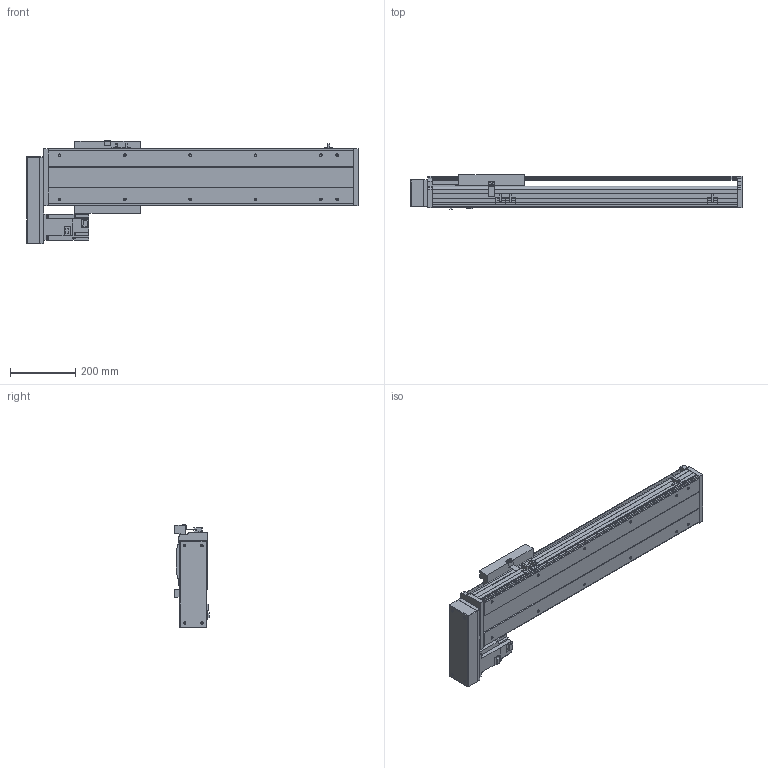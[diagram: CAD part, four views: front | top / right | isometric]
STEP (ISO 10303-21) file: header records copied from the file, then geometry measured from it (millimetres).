
FILE_DESCRIPTION(/* description */ ('STEP AP214'),/* implementation_level */ '2;1');
FILE_NAME(/* name */ 'PSS200-L10-S600-BR-T75-C1-N(0)',/* time_stamp */ '2022-06-09T03:16:29+02:00',/* author */ ('License CC BY-ND 4.0'),/* organization */ ('CADENAS'),/* preprocessor_version */ 'ST-DEVELOPER v18.102',/* originating_system */ 'PARTsolutions',/* authorisation */ ' ');
FILE_SCHEMA (('AUTOMOTIVE_DESIGN {1 0 10303 214 3 1 1}'));
Length unit declared in the file: millimetre
Products named in the file (8): PSS200-L10-S600-BR-T75-C1-N(0); PSS200-S600-BR-N_S; T75-p1; PSS200BR-N_h; PSS200-N_sensor; PSS200-BR-C1-N_sl; PSS200-N_Q; PSS200-S600-BR-C1-N_body
Assembly tree (9 placements, depth 2):
  PSS200-L10-S600-BR-T75-C1-N(0)
    PSS200-S600-BR-N_S
    T75-p1
    PSS200BR-N_h
    PSS200-N_sensor  x3
    PSS200-BR-C1-N_sl
    PSS200-N_Q
    PSS200-S600-BR-C1-N_body
Bounding box: 1016.85 x 105.3 x 317.86 mm (x, y, z)
Volume: 7638224.6 mm3; surface area: 1674940.7 mm2
Topology: 9 solids, 9 shells, 604 faces, 1609 edges, 1062 vertices
Faces by surface type: plane 466, cylinder 114, cone 20, sphere 4
Full cylindrical faces by diameter (mm): 4 x2, 4.5 x4, 6 x7, 6.647 x16, 7.4 x4, 8 x8, 10 x6, 25 x1, 40 x1, 67 x1
Entity records: 16725 total; most frequent: CARTESIAN_POINT 2875, DIRECTION 2772, ORIENTED_EDGE 2738, EDGE_CURVE 1369, LINE 1090, VECTOR 1090, VERTEX_POINT 944, AXIS2_PLACEMENT_3D 841
